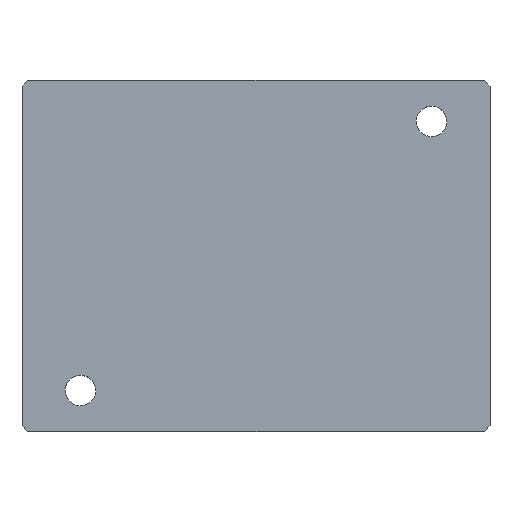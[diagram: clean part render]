
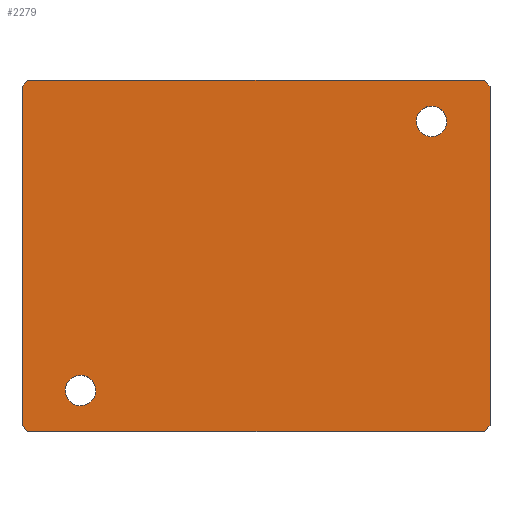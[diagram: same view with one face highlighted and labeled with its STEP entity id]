
A CAD part, top view. The second image highlights one B-rep face of the part: STEP entity #2279.
In plain terms, the highlighted planar face has unit normal (0, 0, 1).
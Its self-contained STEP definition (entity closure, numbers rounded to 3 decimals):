
#71=AXIS2_PLACEMENT_3D('Circle Axis2P3D',#69,#70,$) ;
#105=AXIS2_PLACEMENT_3D('Circle Axis2P3D',#103,#104,$) ;
#137=AXIS2_PLACEMENT_3D('Circle Axis2P3D',#135,#136,$) ;
#164=AXIS2_PLACEMENT_3D('Circle Axis2P3D',#162,#163,$) ;
#2203=AXIS2_PLACEMENT_3D('Plane Axis2P3D',#2200,#2201,#2202) ;
#64=CARTESIAN_POINT('Vertex',(-161.409,-121.233,52.)) ;
#69=CARTESIAN_POINT('Axis2P3D Location',(-150.,-115.,52.)) ;
#73=CARTESIAN_POINT('Vertex',(-138.591,-108.767,52.)) ;
#103=CARTESIAN_POINT('Axis2P3D Location',(-150.,-115.,52.)) ;
#130=CARTESIAN_POINT('Vertex',(161.409,121.233,52.)) ;
#135=CARTESIAN_POINT('Axis2P3D Location',(150.,115.,52.)) ;
#139=CARTESIAN_POINT('Vertex',(138.591,108.767,52.)) ;
#162=CARTESIAN_POINT('Axis2P3D Location',(150.,115.,52.)) ;
#2200=CARTESIAN_POINT('Axis2P3D Location',(0.,0.,52.)) ;
#2205=CARTESIAN_POINT('Line Origine',(-200.,0.,52.)) ;
#2209=CARTESIAN_POINT('Vertex',(-200.,145.,52.)) ;
#2211=CARTESIAN_POINT('Vertex',(-200.,-145.,52.)) ;
#2214=CARTESIAN_POINT('Line Origine',(-197.5,-147.5,52.)) ;
#2218=CARTESIAN_POINT('Vertex',(-195.,-150.,52.)) ;
#2221=CARTESIAN_POINT('Line Origine',(0.,-150.,52.)) ;
#2225=CARTESIAN_POINT('Vertex',(195.,-150.,52.)) ;
#2228=CARTESIAN_POINT('Line Origine',(197.5,-147.5,52.)) ;
#2232=CARTESIAN_POINT('Vertex',(200.,-145.,52.)) ;
#2235=CARTESIAN_POINT('Line Origine',(200.,0.,52.)) ;
#2239=CARTESIAN_POINT('Vertex',(200.,145.,52.)) ;
#2242=CARTESIAN_POINT('Line Origine',(197.5,147.5,52.)) ;
#2246=CARTESIAN_POINT('Vertex',(195.,150.,52.)) ;
#2249=CARTESIAN_POINT('Line Origine',(0.,150.,52.)) ;
#2253=CARTESIAN_POINT('Vertex',(-195.,150.,52.)) ;
#2256=CARTESIAN_POINT('Line Origine',(-197.5,147.5,52.)) ;
#70=DIRECTION('Axis2P3D Direction',(0.,-0.,1.)) ;
#104=DIRECTION('Axis2P3D Direction',(0.,-0.,1.)) ;
#136=DIRECTION('Axis2P3D Direction',(0.,-0.,1.)) ;
#163=DIRECTION('Axis2P3D Direction',(0.,-0.,1.)) ;
#2201=DIRECTION('Axis2P3D Direction',(0.,0.,1.)) ;
#2202=DIRECTION('Axis2P3D XDirection',(1.,0.,0.)) ;
#2206=DIRECTION('Vector Direction',(0.,1.,0.)) ;
#2215=DIRECTION('Vector Direction',(0.707,-0.707,0.)) ;
#2222=DIRECTION('Vector Direction',(-1.,0.,0.)) ;
#2229=DIRECTION('Vector Direction',(-0.707,-0.707,0.)) ;
#2236=DIRECTION('Vector Direction',(0.,-1.,0.)) ;
#2243=DIRECTION('Vector Direction',(0.707,-0.707,0.)) ;
#2250=DIRECTION('Vector Direction',(1.,0.,0.)) ;
#2257=DIRECTION('Vector Direction',(0.707,0.707,0.)) ;
#2207=VECTOR('Line Direction',#2206,1.) ;
#2216=VECTOR('Line Direction',#2215,1.) ;
#2223=VECTOR('Line Direction',#2222,1.) ;
#2230=VECTOR('Line Direction',#2229,1.) ;
#2237=VECTOR('Line Direction',#2236,1.) ;
#2244=VECTOR('Line Direction',#2243,1.) ;
#2251=VECTOR('Line Direction',#2250,1.) ;
#2258=VECTOR('Line Direction',#2257,1.) ;
#2262=ORIENTED_EDGE('',*,*,#2213,.T.) ;
#2263=ORIENTED_EDGE('',*,*,#2220,.F.) ;
#2264=ORIENTED_EDGE('',*,*,#2227,.T.) ;
#2265=ORIENTED_EDGE('',*,*,#2234,.F.) ;
#2266=ORIENTED_EDGE('',*,*,#2241,.T.) ;
#2267=ORIENTED_EDGE('',*,*,#2248,.F.) ;
#2268=ORIENTED_EDGE('',*,*,#2255,.T.) ;
#2269=ORIENTED_EDGE('',*,*,#2260,.F.) ;
#2272=ORIENTED_EDGE('',*,*,#75,.F.) ;
#2273=ORIENTED_EDGE('',*,*,#107,.F.) ;
#2276=ORIENTED_EDGE('',*,*,#141,.F.) ;
#2277=ORIENTED_EDGE('',*,*,#166,.F.) ;
#2274=FACE_BOUND('',#2271,.T.) ;
#2278=FACE_BOUND('',#2275,.T.) ;
#2279=ADVANCED_FACE('PartBody',(#2270,#2274,#2278),#2204,.T.) ;
#72=CIRCLE('generated circle',#71,13.) ;
#106=CIRCLE('generated circle',#105,13.) ;
#138=CIRCLE('generated circle',#137,13.) ;
#165=CIRCLE('generated circle',#164,13.) ;
#75=EDGE_CURVE('',#65,#74,#72,.T.) ;
#107=EDGE_CURVE('',#74,#65,#106,.T.) ;
#141=EDGE_CURVE('',#131,#140,#138,.T.) ;
#166=EDGE_CURVE('',#140,#131,#165,.T.) ;
#2213=EDGE_CURVE('',#2210,#2212,#2208,.F.) ;
#2220=EDGE_CURVE('',#2219,#2212,#2217,.F.) ;
#2227=EDGE_CURVE('',#2219,#2226,#2224,.F.) ;
#2234=EDGE_CURVE('',#2233,#2226,#2231,.T.) ;
#2241=EDGE_CURVE('',#2233,#2240,#2238,.F.) ;
#2248=EDGE_CURVE('',#2247,#2240,#2245,.T.) ;
#2255=EDGE_CURVE('',#2247,#2254,#2252,.F.) ;
#2260=EDGE_CURVE('',#2210,#2254,#2259,.T.) ;
#2261=EDGE_LOOP('',(#2262,#2263,#2264,#2265,#2266,#2267,#2268,#2269)) ;
#2271=EDGE_LOOP('',(#2272,#2273)) ;
#2275=EDGE_LOOP('',(#2276,#2277)) ;
#2270=FACE_OUTER_BOUND('',#2261,.T.) ;
#2208=LINE('Line',#2205,#2207) ;
#2217=LINE('Line',#2214,#2216) ;
#2224=LINE('Line',#2221,#2223) ;
#2231=LINE('Line',#2228,#2230) ;
#2238=LINE('Line',#2235,#2237) ;
#2245=LINE('Line',#2242,#2244) ;
#2252=LINE('Line',#2249,#2251) ;
#2259=LINE('Line',#2256,#2258) ;
#2204=PLANE('',#2203) ;
#65=VERTEX_POINT('',#64) ;
#74=VERTEX_POINT('',#73) ;
#131=VERTEX_POINT('',#130) ;
#140=VERTEX_POINT('',#139) ;
#2210=VERTEX_POINT('',#2209) ;
#2212=VERTEX_POINT('',#2211) ;
#2219=VERTEX_POINT('',#2218) ;
#2226=VERTEX_POINT('',#2225) ;
#2233=VERTEX_POINT('',#2232) ;
#2240=VERTEX_POINT('',#2239) ;
#2247=VERTEX_POINT('',#2246) ;
#2254=VERTEX_POINT('',#2253) ;
